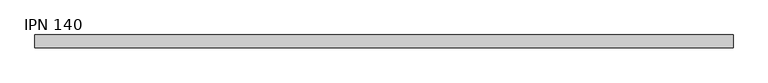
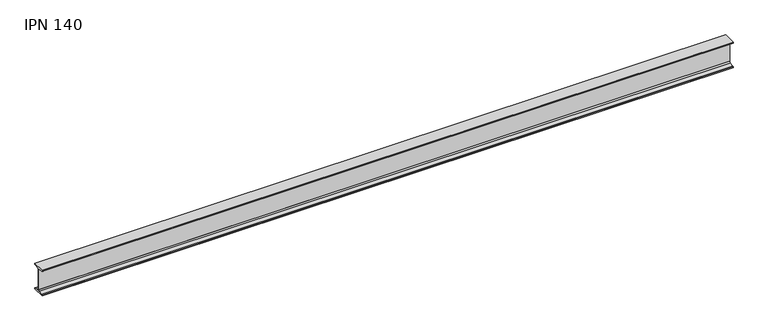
"""IFC4 building model written with IfcOpenShell, lengths in millimetres: beam geometry, IPN - Secciones en I con alas cónicas : IPN 140."""

from ifc_helpers import new_model, si_unit, point, frame, frame_2d, origin, place, context, project, spatial, polyline, circle_curve, trimmed, segment, composite_curve, outline, extrude, source, transform, mapped, element, save


def ipn_140_caa7bbf7(model_context):
    return source(origin(), model_context, "Body", "SweptSolid", [
        extrude(outline(composite_curve([segment(polyline([(33.0, 70.0), (33.0, 66.6671583)]), True, "CONTINUOUS"), segment(trimmed(circle_curve(frame_2d((29.6, 66.6671583)), 3.4), [point((33.0, 66.6671583))], [point((30.0714027, 63.2999964))], False, "CARTESIAN"), True, "CONTINUOUS"), segment(polyline([(30.0714027, 63.2999964), (7.7597073, 60.176359)]), True, "CONTINUOUS"), segment(trimmed(circle_curve(frame_2d((8.55, 54.5314111)), 5.7), [point((7.7597073, 60.176359))], [point((2.85, 54.5314111))], True, "CARTESIAN"), True, "CONTINUOUS"), segment(polyline([(2.85, 54.5314111), (2.85, -54.5314111)]), True, "CONTINUOUS"), segment(trimmed(circle_curve(frame_2d((8.55, -54.5314111)), 5.7), [point((2.85, -54.5314111))], [point((7.7597073, -60.176359))], True, "CARTESIAN"), True, "CONTINUOUS"), segment(polyline([(7.7597073, -60.176359), (30.0714027, -63.2999964)]), True, "CONTINUOUS"), segment(trimmed(circle_curve(frame_2d((29.6, -66.6671583)), 3.4), [point((30.0714027, -63.2999964))], [point((33.0, -66.6671583))], False, "CARTESIAN"), True, "CONTINUOUS"), segment(polyline([(33.0, -66.6671583), (33.0, -70.0), (-33.0, -70.0), (-33.0, -66.6671583)]), True, "CONTINUOUS"), segment(trimmed(circle_curve(frame_2d((-29.6, -66.6671583)), 3.4), [point((-33.0, -66.6671583))], [point((-30.0714027, -63.2999964))], False, "CARTESIAN"), True, "CONTINUOUS"), segment(polyline([(-30.0714027, -63.2999964), (-7.7597073, -60.176359)]), True, "CONTINUOUS"), segment(trimmed(circle_curve(frame_2d((-8.55, -54.5314111)), 5.7), [point((-7.7597073, -60.176359))], [point((-2.85, -54.5314111))], True, "CARTESIAN"), True, "CONTINUOUS"), segment(polyline([(-2.85, -54.5314111), (-2.85, 54.5314111)]), True, "CONTINUOUS"), segment(trimmed(circle_curve(frame_2d((-8.55, 54.5314111)), 5.7), [point((-2.85, 54.5314111))], [point((-7.7597073, 60.176359))], True, "CARTESIAN"), True, "CONTINUOUS"), segment(polyline([(-7.7597073, 60.176359), (-30.0714027, 63.2999964)]), True, "CONTINUOUS"), segment(trimmed(circle_curve(frame_2d((-29.6, 66.6671583)), 3.4), [point((-30.0714027, 63.2999964))], [point((-33.0, 66.6671583))], False, "CARTESIAN"), True, "CONTINUOUS"), segment(polyline([(-33.0, 66.6671583), (-33.0, 70.0), (33.0, 70.0)]), True, "CONTINUOUS")], self_intersect=False)), frame((-1793.0, 0.0, 0.0), z_axis=(1.0, 0.0, 0.0), x_axis=(0.0, 1.0, 0.0)), (0.0, 0.0, 1.0), 3601.2273117),
    ])


if __name__ == "__main__":
    model = new_model("IFC4")
    model_context = context("Model", 3, world=origin())
    ifc_project = project(units=[si_unit("LENGTHUNIT", "METRE", prefix="MILLI")], contexts=[model_context])
    site = spatial("IfcSite", under=ifc_project)
    building = spatial("IfcBuilding", under=site)
    placement = place(None, origin())
    ipn_140_shape = ipn_140_caa7bbf7(model_context)
    element("IfcBeam", 1, ObjectType="IPN - Secciones en I con alas cónicas : IPN 140", at=placement, inside=building, context=model_context, shape_type="MappedRepresentation", body=[
        mapped(ipn_140_shape, transform((0.0, 0.0, 0.0), x_axis=(1.0, 0.0, 0.0), y_axis=(0.0, 1.0, 0.0), z_axis=(0.0, 0.0, 1.0))),
    ])
    save(model, "model.ifc")
